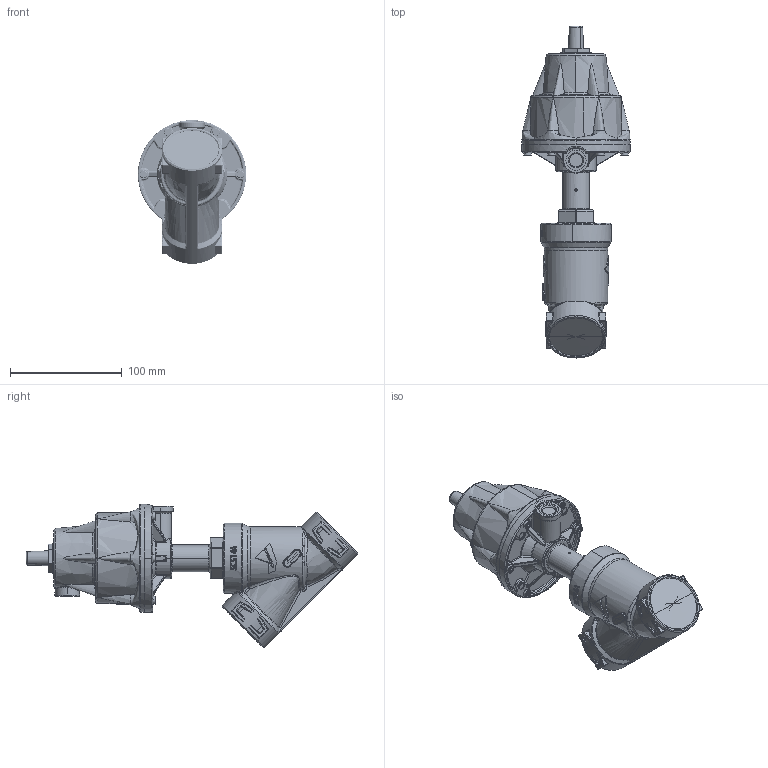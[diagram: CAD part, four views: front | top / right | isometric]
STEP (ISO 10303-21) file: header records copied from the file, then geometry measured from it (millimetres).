
FILE_DESCRIPTION( (''), '2;1');
FILE_NAME ('PC1276.13836.ASV-1000 40A_6590.stp','2025-09-24T09:37:40',(''),(''),'spGate 20.6.3 (****-****-****-****)','','');
FILE_SCHEMA (('AUTOMOTIVE_DESIGN'));
Length unit declared in the file: millimetre
Products named in the file (7): Assembly; Body 40A改1(フロービロー（1000、-C)); Packing case 40A; ASV-1000 40A_M1; TORX screw T20M4-16; Actuator cover(ノーマルクローズ); Actuator base
Assembly tree (11 placements, depth 2):
  Assembly
    Body 40A改1(フロービロー（1000、-C))
    Packing case 40A
    ASV-1000 40A_M1
    TORX screw T20M4-16  x6
    Actuator cover(ノーマルクローズ)
    Actuator base
Bounding box: 97 x 297.71 x 128.76 mm (x, y, z)
Volume: 910742.3 mm3; surface area: 114699.9 mm2
Topology: 11 solids, 11 shells, 1821 faces, 4582 edges, 2742 vertices
Faces by surface type: cylinder 716, bspline 711, plane 314, sphere 80
Entity records: 103423 total; most frequent: CARTESIAN_POINT 48841, ORIENTED_EDGE 6654, COLOUR_RGB 4749, PRESENTATION_STYLE_ASSIGNMENT 4749, STYLED_ITEM 4749, DIRECTION 4675, EDGE_CURVE 3327, DRAUGHTING_PRE_DEFINED_CURVE_FONT 3327
